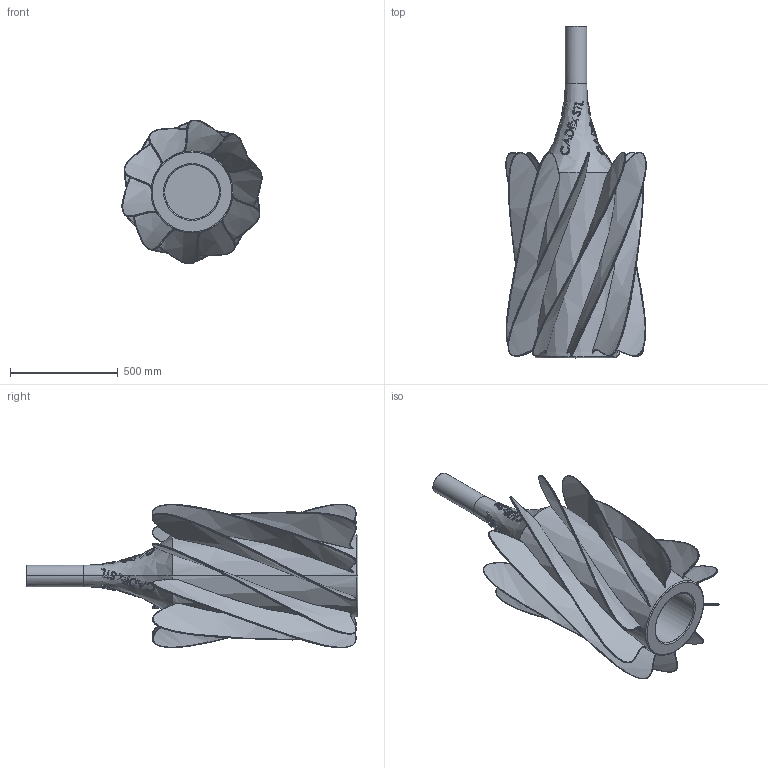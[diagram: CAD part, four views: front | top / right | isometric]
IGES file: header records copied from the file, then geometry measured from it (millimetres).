
Start section:  * IGES Dump file written on 20 Sept 2021  *  * IGES Dump file:  * D:\d4\repo\demos\_masters\STL\impeller\reduced\impeller.igs  *  * Created from part:  * EXP1  *  * Contained in model:  * reduced/impeller  *
Global section: file name: D:\d4\repo\demos\_masters\STL\impeller\reduced\impeller.igs; native system: CADfix; preprocessor:   12/42264; date: 20210920.161801; units: inch
Bounding box: 652.59 x 1542.74 x 667.24 mm (x, y, z)
Surface area: 4492105.2 mm2 (no closed solid volume)
Topology: 0 solids, 0 shells, 543 faces, 3002 edges, 3002 vertices
Faces by surface type: bspline 543
